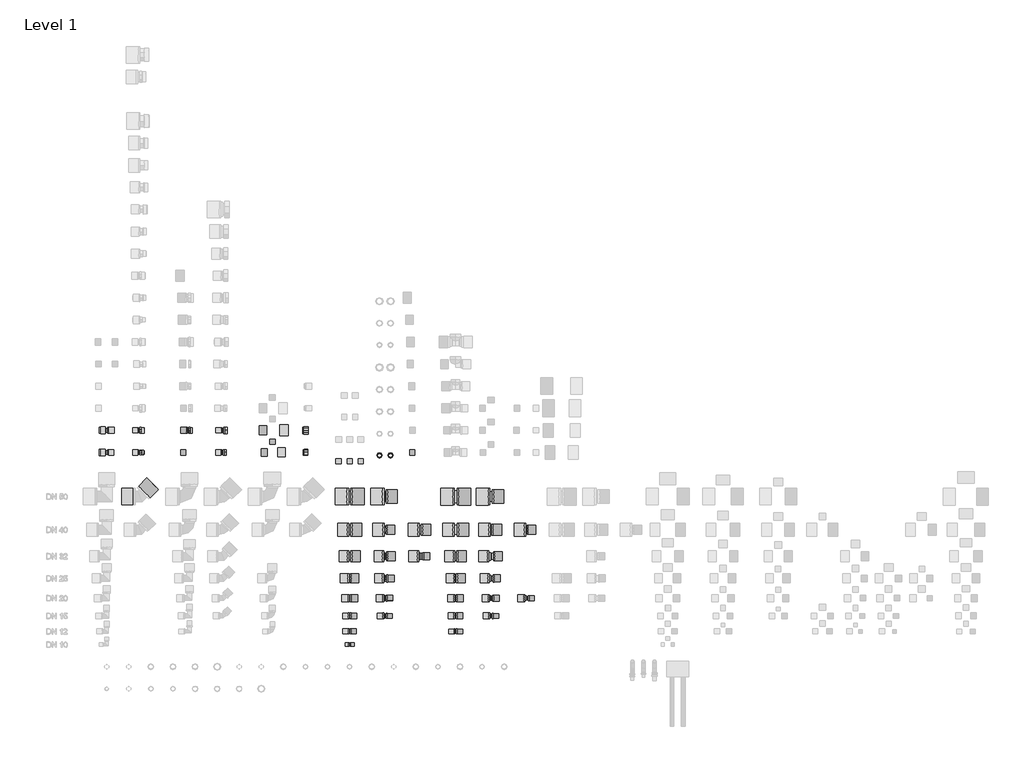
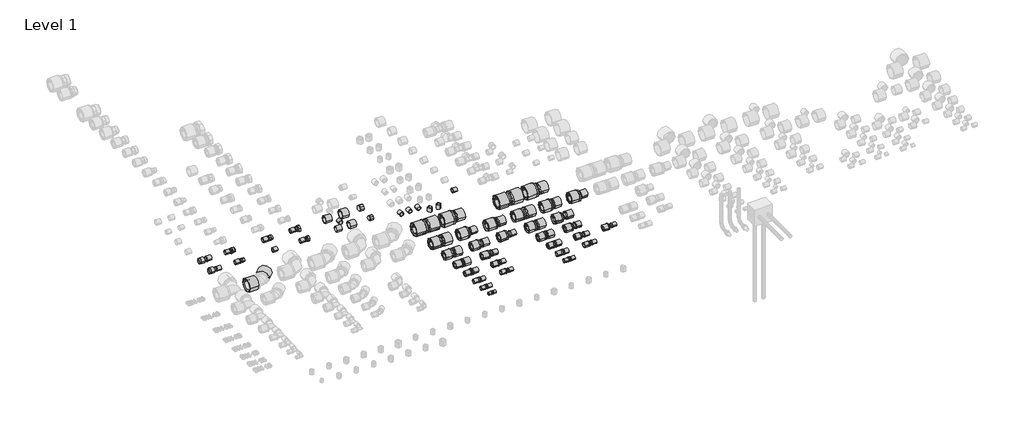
# One storey, part 2 of 6: 123 pipe fittings.
"""IFC4 building model written with IfcOpenShell, lengths in millimetres."""

from ifc_helpers import new_model, si_unit, origin, place, context, project, spatial, transform, mapped, element, save
from components import pipe_fitting_4fda1461, pipe_fitting_37bbe906, pipe_fitting_1c4b8443, pipe_fitting_efe7aa76, pipe_fitting_afe3fb24, pipe_fitting_709f2c42, pipe_fitting_0746f0ab, pipe_fitting_6fe5a3bb, pipe_fitting_5c01712a, pipe_fitting_b25a488c, pipe_fitting_b87c9c57, pipe_fitting_1c786bbc, pipe_fitting_a2244846, pipe_fitting_48054694, pipe_fitting_37e15ff8, pipe_fitting_1876d1a3, pipe_fitting_88740129, pipe_fitting_396ce9a4, pipe_fitting_2d968c61, pipe_fitting_3e5a956d, pipe_fitting_59d7ee80, pipe_fitting_b69b1b09, pipe_fitting_6357771a, pipe_fitting_d834bf19, pipe_fitting_4a6725c8, pipe_fitting_a8e717c4, pipe_fitting_1b92578f, pipe_fitting_dde2d515, pipe_fitting_5ba26716, pipe_fitting_1e73dd1d, pipe_fitting_0a6e0220, pipe_fitting_c8656788, pipe_fitting_377b98a1, pipe_fitting_32b6f711, pipe_fitting_9065546d, pipe_fitting_d806b147, pipe_fitting_b47dd0d5, pipe_fitting_080a5288, pipe_fitting_ffb84d2a, pipe_fitting_c9c9eba3, pipe_fitting_749d9a03, pipe_fitting_037c3912, pipe_fitting_a8fbe6ac, pipe_fitting_d8f8e9d9, pipe_fitting_02b715f6, pipe_fitting_7a5bf8d1, pipe_fitting_13d5c0a8, pipe_fitting_6872f2bf, pipe_fitting_39c83d2c, pipe_fitting_c5a5d3f0, pipe_fitting_217c7af4, pipe_fitting_49fee2ea, pipe_fitting_8af3721d, pipe_fitting_785edea0, pipe_fitting_6b43a2d7, pipe_fitting_e8103e93, pipe_fitting_925a95b2, pipe_fitting_cf229f42, pipe_fitting_0b8f8fc7, pipe_fitting_2f2cc1b0

model = new_model("IFC4")

# Units and contexts
model_context = context("Model", 3, world=origin())
ifc_project = project(units=[si_unit("LENGTHUNIT", "METRE", prefix="MILLI")], contexts=[model_context])

# Site, building, storey
site = spatial("IfcSite", under=ifc_project)
building = spatial("IfcBuilding", under=site)
storey = spatial("IfcBuildingStorey", under=building, Name="Level 1", Elevation=0.0)

# Pipe fittings
placement = place(None, origin())
pipe_fitting_shape = pipe_fitting_4fda1461(model_context)
element("IfcPipeFitting", 1, ObjectType="RAUTITAN_Union_PX : RTI PX U DE", at=placement, inside=storey, context=model_context, shape_type="MappedRepresentation", body=[
    mapped(pipe_fitting_shape, transform((1580.0, 60.0, 0.0), x_axis=(1.0, 0.0, 0.0), y_axis=(0.0, 1.0, 0.0), z_axis=(0.0, 0.0, 1.0))),
])
pipe_fitting_2_shape = pipe_fitting_37bbe906(model_context)
element("IfcPipeFitting", 2, ObjectType="RAUTITAN_Transition_PX : RTI PX Tr DE", at=placement, inside=storey, context=model_context, shape_type="MappedRepresentation", body=[
    mapped(pipe_fitting_2_shape, transform((1740.0, 400.0, 0.0), x_axis=(1.0, 0.0, 0.0), y_axis=(0.0, 1.0, 0.0), z_axis=(0.0, 0.0, 1.0))),
])
pipe_fitting_3_shape = pipe_fitting_1c4b8443(model_context)
element("IfcPipeFitting", 3, ObjectType="RAUTITAN_Transition_RX+ stabil : RTI RX+ stabil Tr DE", at=placement, inside=storey, context=model_context, shape_type="MappedRepresentation", body=[
    mapped(pipe_fitting_3_shape, transform((1740.0, 670.0, 0.0), x_axis=(1.0, 0.0, 0.0), y_axis=(0.0, 1.0, 0.0), z_axis=(0.0, 0.0, 1.0))),
])
pipe_fitting_4_shape = pipe_fitting_efe7aa76(model_context)
element("IfcPipeFitting", 4, ObjectType="RAUTITAN_Transition_LX : RTI LX Tr DE", at=placement, inside=storey, context=model_context, shape_type="MappedRepresentation", body=[
    mapped(pipe_fitting_4_shape, transform((1260.0, 400.0, 0.0), x_axis=(1.0, 0.0, 0.0), y_axis=(0.0, 1.0, 0.0), z_axis=(0.0, 0.0, 1.0))),
])
pipe_fitting_5_shape = pipe_fitting_afe3fb24(model_context)
element("IfcPipeFitting", 5, ObjectType="RAUTITAN_Union_LX : RTI LX U DE", at=placement, inside=storey, context=model_context, shape_type="MappedRepresentation", body=[
    mapped(pipe_fitting_5_shape, transform((1100.0, 300.0, 0.0), x_axis=(1.0, 0.0, 0.0), y_axis=(0.0, 1.0, 0.0), z_axis=(0.0, 0.0, 1.0))),
])
pipe_fitting_6_shape = pipe_fitting_709f2c42(model_context)
element("IfcPipeFitting", 6, ObjectType="RAUTITAN_Sleeve SDR 7,4 : RTI S SDR 7,4", at=placement, inside=storey, context=model_context, shape_type="MappedRepresentation", body=[
    mapped(pipe_fitting_6_shape, transform((1094.5, 0.0, 0.0), x_axis=(-1.0, 0.0, 0.0), y_axis=(0.0, -1.0, 0.0), z_axis=(0.0, 0.0, 1.0))),
])
element("IfcPipeFitting", 7, ObjectType="RAUTITAN_Sleeve SDR 7,4 : RTI S SDR 7,4", at=placement, inside=storey, context=model_context, shape_type="MappedRepresentation", body=[
    mapped(pipe_fitting_6_shape, transform((1105.5, 0.0, 0.0), x_axis=(1.0, 0.0, 0.0), y_axis=(0.0, 1.0, 0.0), z_axis=(0.0, 0.0, 1.0))),
])
pipe_fitting_7_shape = pipe_fitting_0746f0ab(model_context)
element("IfcPipeFitting", 8, ObjectType="RAUTITAN_Sleeve SDR 7,4 : RTI S SDR 7,4", at=placement, inside=storey, context=model_context, shape_type="MappedRepresentation", body=[
    mapped(pipe_fitting_7_shape, transform((1093.7, 60.0, 0.0), x_axis=(-1.0, 0.0, 0.0), y_axis=(0.0, -1.0, 0.0), z_axis=(0.0, 0.0, 1.0))),
])
element("IfcPipeFitting", 9, ObjectType="RAUTITAN_Sleeve SDR 7,4 : RTI S SDR 7,4", at=placement, inside=storey, context=model_context, shape_type="MappedRepresentation", body=[
    mapped(pipe_fitting_7_shape, transform((1106.3, 60.0, 0.0), x_axis=(1.0, 0.0, 0.0), y_axis=(0.0, 1.0, 0.0), z_axis=(0.0, 0.0, 1.0))),
])
element("IfcPipeFitting", 10, ObjectType="RAUTITAN_Sleeve SDR 7,4 : RTI S SDR 7,4", at=placement, inside=storey, context=model_context, shape_type="MappedRepresentation", body=[
    mapped(pipe_fitting_7_shape, transform((1269.55, 130.0, 0.0), x_axis=(1.0, 0.0, 0.0), y_axis=(0.0, 1.0, 0.0), z_axis=(0.0, 0.0, 1.0))),
])
pipe_fitting_8_shape = pipe_fitting_6fe5a3bb(model_context)
element("IfcPipeFitting", 11, ObjectType="RAUTITAN_Sleeve SDR 7,4 : RTI S SDR 7,4", at=placement, inside=storey, context=model_context, shape_type="MappedRepresentation", body=[
    mapped(pipe_fitting_8_shape, transform((1250.45, 130.0, 0.0), x_axis=(-1.0, 0.0, 0.0), y_axis=(0.0, -1.0, 0.0), z_axis=(0.0, 0.0, 1.0))),
])
pipe_fitting_9_shape = pipe_fitting_5c01712a(model_context)
element("IfcPipeFitting", 12, ObjectType="RAUTITAN_Sleeve SDR 7,4 : RTI S SDR 7,4", at=placement, inside=storey, context=model_context, shape_type="MappedRepresentation", body=[
    mapped(pipe_fitting_9_shape, transform((1089.0, 520.0, 0.0), x_axis=(-1.0, 0.0, 0.0), y_axis=(0.0, -1.0, 0.0), z_axis=(0.0, 0.0, 1.0))),
])
element("IfcPipeFitting", 13, ObjectType="RAUTITAN_Sleeve SDR 7,4 : RTI S SDR 7,4", at=placement, inside=storey, context=model_context, shape_type="MappedRepresentation", body=[
    mapped(pipe_fitting_9_shape, transform((1111.0, 520.0, 0.0), x_axis=(1.0, 0.0, 0.0), y_axis=(0.0, 1.0, 0.0), z_axis=(0.0, 0.0, 1.0))),
])
element("IfcPipeFitting", 14, ObjectType="RAUTITAN_Sleeve SDR 7,4 : RTI S SDR 7,4", at=placement, inside=storey, context=model_context, shape_type="MappedRepresentation", body=[
    mapped(pipe_fitting_9_shape, transform((1249.25, 520.0, 0.0), x_axis=(-1.0, 0.0, 0.0), y_axis=(0.0, -1.0, 0.0), z_axis=(0.0, 0.0, 1.0))),
])
element("IfcPipeFitting", 15, ObjectType="RAUTITAN_Sleeve SDR 7,4 : RTI S SDR 7,4", at=placement, inside=storey, context=model_context, shape_type="MappedRepresentation", body=[
    mapped(pipe_fitting_9_shape, transform((1409.0, 520.0, 0.0), x_axis=(-1.0, 0.0, 0.0), y_axis=(0.0, -1.0, 0.0), z_axis=(0.0, 0.0, 1.0))),
])
element("IfcPipeFitting", 16, ObjectType="RAUTITAN_Sleeve SDR 7,4 : RTI S SDR 7,4", at=placement, inside=storey, context=model_context, shape_type="MappedRepresentation", body=[
    mapped(pipe_fitting_9_shape, transform((1271.75, 670.0, 0.0), x_axis=(1.0, 0.0, 0.0), y_axis=(0.0, 1.0, 0.0), z_axis=(0.0, 0.0, 1.0))),
])
pipe_fitting_10_shape = pipe_fitting_b25a488c(model_context)
element("IfcPipeFitting", 17, ObjectType="RAUTITAN_Sleeve SDR 7,4 : RTI S SDR 7,4", at=placement, inside=storey, context=model_context, shape_type="MappedRepresentation", body=[
    mapped(pipe_fitting_10_shape, transform((120.7, 670.0, 0.0), x_axis=(-1.0, 0.0, 0.0), y_axis=(0.0, -1.0, 0.0), z_axis=(0.0, 0.0, 1.0))),
])
element("IfcPipeFitting", 18, ObjectType="RAUTITAN_Sleeve SDR 7,4 : RTI S SDR 7,4", at=placement, inside=storey, context=model_context, shape_type="MappedRepresentation", body=[
    mapped(pipe_fitting_10_shape, transform((170.7182287, 690.7182287, 0.0), x_axis=(0.7071067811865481, 0.707106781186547, 0.0), y_axis=(-0.707106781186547, 0.7071067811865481, 0.0), z_axis=(0.0, 0.0, 1.0))),
])
element("IfcPipeFitting", 19, ObjectType="RAUTITAN_Sleeve SDR 7,4 : RTI S SDR 7,4", at=placement, inside=storey, context=model_context, shape_type="MappedRepresentation", body=[
    mapped(pipe_fitting_10_shape, transform((1087.5, 670.0, 0.0), x_axis=(-1.0, 0.0, 0.0), y_axis=(0.0, -1.0, 0.0), z_axis=(0.0, 0.0, 1.0))),
])
element("IfcPipeFitting", 20, ObjectType="RAUTITAN_Sleeve SDR 7,4 : RTI S SDR 7,4", at=placement, inside=storey, context=model_context, shape_type="MappedRepresentation", body=[
    mapped(pipe_fitting_10_shape, transform((1112.5, 670.0, 0.0), x_axis=(1.0, 0.0, 0.0), y_axis=(0.0, 1.0, 0.0), z_axis=(0.0, 0.0, 1.0))),
])
element("IfcPipeFitting", 21, ObjectType="RAUTITAN_Sleeve SDR 7,4 : RTI S SDR 7,4", at=placement, inside=storey, context=model_context, shape_type="MappedRepresentation", body=[
    mapped(pipe_fitting_10_shape, transform((1248.25, 670.0, 0.0), x_axis=(-1.0, 0.0, 0.0), y_axis=(0.0, -1.0, 0.0), z_axis=(0.0, 0.0, 1.0))),
])
pipe_fitting_11_shape = pipe_fitting_b87c9c57(model_context)
element("IfcPipeFitting", 22, ObjectType="RAUTITAN_Union_LX : RTI LX U NL", at=placement, inside=storey, context=model_context, shape_type="MappedRepresentation", body=[
    mapped(pipe_fitting_11_shape, transform((1100.0, 0.0, 0.0), x_axis=(1.0, 0.0, 0.0), y_axis=(0.0, 1.0, 0.0), z_axis=(0.0, 0.0, 1.0))),
])
pipe_fitting_12_shape = pipe_fitting_1c786bbc(model_context)
element("IfcPipeFitting", 23, ObjectType="RAUTITAN_Union_LX : RTI LX U DE", at=placement, inside=storey, context=model_context, shape_type="MappedRepresentation", body=[
    mapped(pipe_fitting_12_shape, transform((1100.0, 670.0, 0.0), x_axis=(1.0, 0.0, 0.0), y_axis=(0.0, 1.0, 0.0), z_axis=(0.0, 0.0, 1.0))),
])
pipe_fitting_13_shape = pipe_fitting_a2244846(model_context)
element("IfcPipeFitting", 24, ObjectType="RAUTITAN_Union_LX : RTI LX U DE", at=placement, inside=storey, context=model_context, shape_type="MappedRepresentation", body=[
    mapped(pipe_fitting_13_shape, transform((1100.0, 520.0, 0.0), x_axis=(1.0, 0.0, 0.0), y_axis=(0.0, 1.0, 0.0), z_axis=(0.0, 0.0, 1.0))),
])
pipe_fitting_14_shape = pipe_fitting_48054694(model_context)
element("IfcPipeFitting", 25, ObjectType="RAUTITAN_Union_LX : RTI LX U DE", at=placement, inside=storey, context=model_context, shape_type="MappedRepresentation", body=[
    mapped(pipe_fitting_14_shape, transform((1100.0, 400.0, 0.0), x_axis=(1.0, 0.0, 0.0), y_axis=(0.0, 1.0, 0.0), z_axis=(0.0, 0.0, 1.0))),
])
pipe_fitting_15_shape = pipe_fitting_37e15ff8(model_context)
element("IfcPipeFitting", 26, ObjectType="RAUTITAN_Sleeve SDR 7,4 : RTI S SDR 7,4", at=placement, inside=storey, context=model_context, shape_type="MappedRepresentation", body=[
    mapped(pipe_fitting_15_shape, transform((1089.0, 400.0, 0.0), x_axis=(-1.0, 0.0, 0.0), y_axis=(0.0, -1.0, 0.0), z_axis=(0.0, 0.0, 1.0))),
])
element("IfcPipeFitting", 27, ObjectType="RAUTITAN_Sleeve SDR 7,4 : RTI S SDR 7,4", at=placement, inside=storey, context=model_context, shape_type="MappedRepresentation", body=[
    mapped(pipe_fitting_15_shape, transform((1111.0, 400.0, 0.0), x_axis=(1.0, 0.0, 0.0), y_axis=(0.0, 1.0, 0.0), z_axis=(0.0, 0.0, 1.0))),
])
element("IfcPipeFitting", 28, ObjectType="RAUTITAN_Sleeve SDR 7,4 : RTI S SDR 7,4", at=placement, inside=storey, context=model_context, shape_type="MappedRepresentation", body=[
    mapped(pipe_fitting_15_shape, transform((1247.35, 400.0, 0.0), x_axis=(-1.0, 0.0, 0.0), y_axis=(0.0, -1.0, 0.0), z_axis=(0.0, 0.0, 1.0))),
])
element("IfcPipeFitting", 29, ObjectType="RAUTITAN_Sleeve SDR 7,4 : RTI S SDR 7,4", at=placement, inside=storey, context=model_context, shape_type="MappedRepresentation", body=[
    mapped(pipe_fitting_15_shape, transform((1405.5, 400.0, 0.0), x_axis=(-1.0, 0.0, 0.0), y_axis=(0.0, -1.0, 0.0), z_axis=(0.0, 0.0, 1.0))),
])
element("IfcPipeFitting", 30, ObjectType="RAUTITAN_Sleeve SDR 7,4 : RTI S SDR 7,4", at=placement, inside=storey, context=model_context, shape_type="MappedRepresentation", body=[
    mapped(pipe_fitting_15_shape, transform((1431.0, 520.0, 0.0), x_axis=(1.0, 0.0, 0.0), y_axis=(0.0, 1.0, 0.0), z_axis=(0.0, 0.0, 1.0))),
])
pipe_fitting_16_shape = pipe_fitting_1876d1a3(model_context)
element("IfcPipeFitting", 31, ObjectType="RAUTITAN_Sleeve SDR 7,4 : RTI S SDR 7,4", at=placement, inside=storey, context=model_context, shape_type="MappedRepresentation", body=[
    mapped(pipe_fitting_16_shape, transform((1092.0, 300.0, 0.0), x_axis=(-1.0, 0.0, 0.0), y_axis=(0.0, -1.0, 0.0), z_axis=(0.0, 0.0, 1.0))),
])
element("IfcPipeFitting", 32, ObjectType="RAUTITAN_Sleeve SDR 7,4 : RTI S SDR 7,4", at=placement, inside=storey, context=model_context, shape_type="MappedRepresentation", body=[
    mapped(pipe_fitting_16_shape, transform((1108.0, 300.0, 0.0), x_axis=(1.0, 0.0, 0.0), y_axis=(0.0, 1.0, 0.0), z_axis=(0.0, 0.0, 1.0))),
])
element("IfcPipeFitting", 33, ObjectType="RAUTITAN_Sleeve SDR 7,4 : RTI S SDR 7,4", at=placement, inside=storey, context=model_context, shape_type="MappedRepresentation", body=[
    mapped(pipe_fitting_16_shape, transform((1272.65, 400.0, 0.0), x_axis=(1.0, 0.0, 0.0), y_axis=(0.0, 1.0, 0.0), z_axis=(0.0, 0.0, 1.0))),
])
element("IfcPipeFitting", 34, ObjectType="RAUTITAN_Sleeve SDR 7,4 : RTI S SDR 7,4", at=placement, inside=storey, context=model_context, shape_type="MappedRepresentation", body=[
    mapped(pipe_fitting_16_shape, transform((1270.75, 520.0, 0.0), x_axis=(1.0, 0.0, 0.0), y_axis=(0.0, 1.0, 0.0), z_axis=(0.0, 0.0, 1.0))),
])
element("IfcPipeFitting", 35, ObjectType="RAUTITAN_Sleeve SDR 7,4 : RTI S SDR 7,4", at=placement, inside=storey, context=model_context, shape_type="MappedRepresentation", body=[
    mapped(pipe_fitting_16_shape, transform((1248.15, 300.0, 0.0), x_axis=(-1.0, 0.0, 0.0), y_axis=(0.0, -1.0, 0.0), z_axis=(0.0, 0.0, 1.0))),
])
pipe_fitting_17_shape = pipe_fitting_88740129(model_context)
element("IfcPipeFitting", 36, ObjectType="RAUTITAN_Union_LX : RTI LX U DE", at=placement, inside=storey, context=model_context, shape_type="MappedRepresentation", body=[
    mapped(pipe_fitting_17_shape, transform((1100.0, 210.0, 0.0), x_axis=(1.0, 0.0, 0.0), y_axis=(0.0, 1.0, 0.0), z_axis=(0.0, 0.0, 1.0))),
])
pipe_fitting_18_shape = pipe_fitting_396ce9a4(model_context)
element("IfcPipeFitting", 37, ObjectType="RAUTITAN_Sleeve SDR 7,4 : RTI S SDR 7,4", at=placement, inside=storey, context=model_context, shape_type="MappedRepresentation", body=[
    mapped(pipe_fitting_18_shape, transform((1092.8, 210.0, 0.0), x_axis=(-1.0, 0.0, 0.0), y_axis=(0.0, -1.0, 0.0), z_axis=(0.0, 0.0, 1.0))),
])
element("IfcPipeFitting", 38, ObjectType="RAUTITAN_Sleeve SDR 7,4 : RTI S SDR 7,4", at=placement, inside=storey, context=model_context, shape_type="MappedRepresentation", body=[
    mapped(pipe_fitting_18_shape, transform((1107.2, 210.0, 0.0), x_axis=(1.0, 0.0, 0.0), y_axis=(0.0, 1.0, 0.0), z_axis=(0.0, 0.0, 1.0))),
])
element("IfcPipeFitting", 39, ObjectType="RAUTITAN_Sleeve SDR 7,4 : RTI S SDR 7,4", at=placement, inside=storey, context=model_context, shape_type="MappedRepresentation", body=[
    mapped(pipe_fitting_18_shape, transform((1434.5, 400.0, 0.0), x_axis=(1.0, 0.0, 0.0), y_axis=(0.0, 1.0, 0.0), z_axis=(0.0, 0.0, 1.0))),
])
element("IfcPipeFitting", 40, ObjectType="RAUTITAN_Sleeve SDR 7,4 : RTI S SDR 7,4", at=placement, inside=storey, context=model_context, shape_type="MappedRepresentation", body=[
    mapped(pipe_fitting_18_shape, transform((1271.85, 300.0, 0.0), x_axis=(1.0, 0.0, 0.0), y_axis=(0.0, 1.0, 0.0), z_axis=(0.0, 0.0, 1.0))),
])
element("IfcPipeFitting", 41, ObjectType="RAUTITAN_Sleeve SDR 7,4 : RTI S SDR 7,4", at=placement, inside=storey, context=model_context, shape_type="MappedRepresentation", body=[
    mapped(pipe_fitting_18_shape, transform((1250.0, 210.0, 0.0), x_axis=(-1.0, 0.0, 0.0), y_axis=(0.0, -1.0, 0.0), z_axis=(0.0, 0.0, 1.0))),
])
pipe_fitting_19_shape = pipe_fitting_2d968c61(model_context)
element("IfcPipeFitting", 42, ObjectType="RAUTITAN_Union_LX : RTI LX U DE", at=placement, inside=storey, context=model_context, shape_type="MappedRepresentation", body=[
    mapped(pipe_fitting_19_shape, transform((1100.0, 130.0, 0.0), x_axis=(1.0, 0.0, 0.0), y_axis=(0.0, 1.0, 0.0), z_axis=(0.0, 0.0, 1.0))),
])
element("IfcPipeFitting", 43, ObjectType="RAUTITAN_Sleeve SDR 7,4 : RTI S SDR 7,4", at=placement, inside=storey, context=model_context, shape_type="MappedRepresentation", body=[
    mapped(pipe_fitting_8_shape, transform((1093.2, 130.0, 0.0), x_axis=(-1.0, 0.0, 0.0), y_axis=(0.0, -1.0, 0.0), z_axis=(0.0, 0.0, 1.0))),
])
element("IfcPipeFitting", 44, ObjectType="RAUTITAN_Sleeve SDR 7,4 : RTI S SDR 7,4", at=placement, inside=storey, context=model_context, shape_type="MappedRepresentation", body=[
    mapped(pipe_fitting_8_shape, transform((1106.8, 130.0, 0.0), x_axis=(1.0, 0.0, 0.0), y_axis=(0.0, 1.0, 0.0), z_axis=(0.0, 0.0, 1.0))),
])
element("IfcPipeFitting", 45, ObjectType="RAUTITAN_Sleeve SDR 7,4 : RTI S SDR 7,4", at=placement, inside=storey, context=model_context, shape_type="MappedRepresentation", body=[
    mapped(pipe_fitting_8_shape, transform((1270.0, 210.0, 0.0), x_axis=(1.0, 0.0, 0.0), y_axis=(0.0, 1.0, 0.0), z_axis=(0.0, 0.0, 1.0))),
])
pipe_fitting_20_shape = pipe_fitting_3e5a956d(model_context)
element("IfcPipeFitting", 46, ObjectType="RAUTITAN_Union_LX : RTI LX U NL", at=placement, inside=storey, context=model_context, shape_type="MappedRepresentation", body=[
    mapped(pipe_fitting_20_shape, transform((1100.0, 60.0, 0.0), x_axis=(1.0, 0.0, 0.0), y_axis=(0.0, 1.0, 0.0), z_axis=(0.0, 0.0, 1.0))),
])
pipe_fitting_21_shape = pipe_fitting_59d7ee80(model_context)
element("IfcPipeFitting", 47, ObjectType="RAUTITAN_Transition_LX : RTI LX Tr DE", at=placement, inside=storey, context=model_context, shape_type="MappedRepresentation", body=[
    mapped(pipe_fitting_21_shape, transform((1420.0, 400.0, 0.0), x_axis=(1.0, 0.0, 0.0), y_axis=(0.0, 1.0, 0.0), z_axis=(0.0, 0.0, 1.0))),
])
pipe_fitting_22_shape = pipe_fitting_b69b1b09(model_context)
element("IfcPipeFitting", 48, ObjectType="RAUTITAN_Transition_LX : RTI LX Tr DE", at=placement, inside=storey, context=model_context, shape_type="MappedRepresentation", body=[
    mapped(pipe_fitting_22_shape, transform((1260.0, 520.0, 0.0), x_axis=(1.0, 0.0, 0.0), y_axis=(0.0, 1.0, 0.0), z_axis=(0.0, 0.0, 1.0))),
])
pipe_fitting_23_shape = pipe_fitting_6357771a(model_context)
element("IfcPipeFitting", 49, ObjectType="RAUTITAN_Transition_LX : RTI LX Tr DE", at=placement, inside=storey, context=model_context, shape_type="MappedRepresentation", body=[
    mapped(pipe_fitting_23_shape, transform((1420.0, 520.0, 0.0), x_axis=(1.0, 0.0, 0.0), y_axis=(0.0, 1.0, 0.0), z_axis=(0.0, 0.0, 1.0))),
])
pipe_fitting_24_shape = pipe_fitting_d834bf19(model_context)
element("IfcPipeFitting", 50, ObjectType="RAUTITAN_Transition_LX : RTI LX Tr DE", at=placement, inside=storey, context=model_context, shape_type="MappedRepresentation", body=[
    mapped(pipe_fitting_24_shape, transform((1260.0, 300.0, 0.0), x_axis=(1.0, 0.0, 0.0), y_axis=(0.0, 1.0, 0.0), z_axis=(0.0, 0.0, 1.0))),
])
pipe_fitting_25_shape = pipe_fitting_4a6725c8(model_context)
element("IfcPipeFitting", 51, ObjectType="RAUTITAN_Transition_LX : RTI LX Tr DE", at=placement, inside=storey, context=model_context, shape_type="MappedRepresentation", body=[
    mapped(pipe_fitting_25_shape, transform((1260.0, 210.0, 0.0), x_axis=(1.0, 0.0, 0.0), y_axis=(0.0, 1.0, 0.0), z_axis=(0.0, 0.0, 1.0))),
])
pipe_fitting_26_shape = pipe_fitting_a8e717c4(model_context)
element("IfcPipeFitting", 52, ObjectType="RAUTITAN_Transition_LX : RTI LX Tr NL", at=placement, inside=storey, context=model_context, shape_type="MappedRepresentation", body=[
    mapped(pipe_fitting_26_shape, transform((1260.0, 130.0, 0.0), x_axis=(1.0, 0.0, 0.0), y_axis=(0.0, 1.0, 0.0), z_axis=(0.0, 0.0, 1.0))),
])
pipe_fitting_27_shape = pipe_fitting_1b92578f(model_context)
element("IfcPipeFitting", 53, ObjectType="RAUTITAN_Transition_LX : RTI LX Tr DE", at=placement, inside=storey, context=model_context, shape_type="MappedRepresentation", body=[
    mapped(pipe_fitting_27_shape, transform((1260.0, 670.0, 0.0), x_axis=(1.0, 0.0, 0.0), y_axis=(0.0, 1.0, 0.0), z_axis=(0.0, 0.0, 1.0))),
])
pipe_fitting_28_shape = pipe_fitting_dde2d515(model_context)
element("IfcPipeFitting", 54, ObjectType="RAUTITAN_Union_PX : RTI PX U DE", at=placement, inside=storey, context=model_context, shape_type="MappedRepresentation", body=[
    mapped(pipe_fitting_28_shape, transform((1580.0, 130.0, 0.0), x_axis=(1.0, 0.0, 0.0), y_axis=(0.0, 1.0, 0.0), z_axis=(0.0, 0.0, 1.0))),
])
pipe_fitting_29_shape = pipe_fitting_5ba26716(model_context)
element("IfcPipeFitting", 55, ObjectType="RAUTITAN_Union_PX : RTI PX U DE", at=placement, inside=storey, context=model_context, shape_type="MappedRepresentation", body=[
    mapped(pipe_fitting_29_shape, transform((1580.0, 210.0, 0.0), x_axis=(1.0, 0.0, 0.0), y_axis=(0.0, 1.0, 0.0), z_axis=(0.0, 0.0, 1.0))),
])
pipe_fitting_30_shape = pipe_fitting_1e73dd1d(model_context)
element("IfcPipeFitting", 56, ObjectType="RAUTITAN_Union_PX : RTI PX U DE", at=placement, inside=storey, context=model_context, shape_type="MappedRepresentation", body=[
    mapped(pipe_fitting_30_shape, transform((1580.0, 300.0, 0.0), x_axis=(1.0, 0.0, 0.0), y_axis=(0.0, 1.0, 0.0), z_axis=(0.0, 0.0, 1.0))),
])
pipe_fitting_31_shape = pipe_fitting_0a6e0220(model_context)
element("IfcPipeFitting", 57, ObjectType="RAUTITAN_Union_PX : RTI PX U DE", at=placement, inside=storey, context=model_context, shape_type="MappedRepresentation", body=[
    mapped(pipe_fitting_31_shape, transform((1580.0, 400.0, 0.0), x_axis=(1.0, 0.0, 0.0), y_axis=(0.0, 1.0, 0.0), z_axis=(0.0, 0.0, 1.0))),
])
pipe_fitting_32_shape = pipe_fitting_c8656788(model_context)
element("IfcPipeFitting", 58, ObjectType="RAUTITAN_Transition_PX : RTI PX Tr DE", at=placement, inside=storey, context=model_context, shape_type="MappedRepresentation", body=[
    mapped(pipe_fitting_32_shape, transform((1740.0, 300.0, 0.0), x_axis=(1.0, 0.0, 0.0), y_axis=(0.0, 1.0, 0.0), z_axis=(0.0, 0.0, 1.0))),
])
pipe_fitting_33_shape = pipe_fitting_377b98a1(model_context)
element("IfcPipeFitting", 59, ObjectType="RAUTITAN_Transition_PX : RTI PX Tr DE", at=placement, inside=storey, context=model_context, shape_type="MappedRepresentation", body=[
    mapped(pipe_fitting_33_shape, transform((1740.0, 210.0, 0.0), x_axis=(1.0, 0.0, 0.0), y_axis=(0.0, 1.0, 0.0), z_axis=(0.0, 0.0, 1.0))),
])
pipe_fitting_34_shape = pipe_fitting_32b6f711(model_context)
element("IfcPipeFitting", 60, ObjectType="RAUTITAN_Transition_PX : RTI PX Tr DE", at=placement, inside=storey, context=model_context, shape_type="MappedRepresentation", body=[
    mapped(pipe_fitting_34_shape, transform((1900.0, 210.0, 0.0), x_axis=(1.0, 0.0, 0.0), y_axis=(0.0, 1.0, 0.0), z_axis=(0.0, 0.0, 1.0))),
])
pipe_fitting_35_shape = pipe_fitting_9065546d(model_context)
element("IfcPipeFitting", 61, ObjectType="RAUTITAN_Transition_PX : RTI PX Tr DE", at=placement, inside=storey, context=model_context, shape_type="MappedRepresentation", body=[
    mapped(pipe_fitting_35_shape, transform((1740.0, 130.0, 0.0), x_axis=(1.0, 0.0, 0.0), y_axis=(0.0, 1.0, 0.0), z_axis=(0.0, 0.0, 1.0))),
])
pipe_fitting_36_shape = pipe_fitting_d806b147(model_context)
element("IfcPipeFitting", 62, ObjectType="RAUTITAN_Transition_RX+ stabil : RTI RX+ stabil Tr DE", at=placement, inside=storey, context=model_context, shape_type="MappedRepresentation", body=[
    mapped(pipe_fitting_36_shape, transform((1740.0, 520.0, 0.0), x_axis=(1.0, 0.0, 0.0), y_axis=(0.0, 1.0, 0.0), z_axis=(0.0, 0.0, 1.0))),
])
pipe_fitting_37_shape = pipe_fitting_b47dd0d5(model_context)
element("IfcPipeFitting", 63, ObjectType="RAUTITAN_Transition_RX+ stabil : RTI RX+ stabil Tr DE", at=placement, inside=storey, context=model_context, shape_type="MappedRepresentation", body=[
    mapped(pipe_fitting_37_shape, transform((1900.0, 520.0, 0.0), x_axis=(1.0, 0.0, 0.0), y_axis=(0.0, 1.0, 0.0), z_axis=(0.0, 0.0, 1.0))),
])
pipe_fitting_38_shape = pipe_fitting_080a5288(model_context)
element("IfcPipeFitting", 64, ObjectType="RAUTITAN_Union_RX+ stabil : RTI RX+ stabil U DE", at=placement, inside=storey, context=model_context, shape_type="MappedRepresentation", body=[
    mapped(pipe_fitting_38_shape, transform((1580.0, 670.0, 0.0), x_axis=(1.0, 0.0, 0.0), y_axis=(0.0, 1.0, 0.0), z_axis=(0.0, 0.0, 1.0))),
])
pipe_fitting_39_shape = pipe_fitting_ffb84d2a(model_context)
element("IfcPipeFitting", 65, ObjectType="RAUTITAN_Union_RX+ stabil : RTI RX+ stabil U DE", at=placement, inside=storey, context=model_context, shape_type="MappedRepresentation", body=[
    mapped(pipe_fitting_39_shape, transform((1580.0, 520.0, 0.0), x_axis=(1.0, 0.0, 0.0), y_axis=(0.0, 1.0, 0.0), z_axis=(0.0, 0.0, 1.0))),
])
pipe_fitting_40_shape = pipe_fitting_c9c9eba3(model_context)
element("IfcPipeFitting", 66, ObjectType="RAUTITAN_Sleeve PX : RTI S PX", at=placement, inside=storey, context=model_context, shape_type="MappedRepresentation", body=[
    mapped(pipe_fitting_40_shape, transform((1572.75, 60.0, 0.0), x_axis=(-1.0, 0.0, 0.0), y_axis=(0.0, -1.0, 0.0), z_axis=(0.0, 0.0, 1.0))),
])
element("IfcPipeFitting", 67, ObjectType="RAUTITAN_Sleeve PX : RTI S PX", at=placement, inside=storey, context=model_context, shape_type="MappedRepresentation", body=[
    mapped(pipe_fitting_40_shape, transform((1587.25, 60.0, 0.0), x_axis=(1.0, 0.0, 0.0), y_axis=(0.0, 1.0, 0.0), z_axis=(0.0, 0.0, 1.0))),
])
element("IfcPipeFitting", 68, ObjectType="RAUTITAN_Sleeve PX : RTI S PX", at=placement, inside=storey, context=model_context, shape_type="MappedRepresentation", body=[
    mapped(pipe_fitting_40_shape, transform((1912.15, 210.0, 0.0), x_axis=(1.0, 0.0, 0.0), y_axis=(0.0, 1.0, 0.0), z_axis=(0.0, 0.0, 1.0))),
])
element("IfcPipeFitting", 69, ObjectType="RAUTITAN_Sleeve PX : RTI S PX", at=placement, inside=storey, context=model_context, shape_type="MappedRepresentation", body=[
    mapped(pipe_fitting_40_shape, transform((1750.3, 130.0, 0.0), x_axis=(1.0, 0.0, 0.0), y_axis=(0.0, 1.0, 0.0), z_axis=(0.0, 0.0, 1.0))),
])
pipe_fitting_41_shape = pipe_fitting_749d9a03(model_context)
element("IfcPipeFitting", 70, ObjectType="RAUTITAN_Sleeve PX : RTI S PX", at=placement, inside=storey, context=model_context, shape_type="MappedRepresentation", body=[
    mapped(pipe_fitting_41_shape, transform((1572.15, 130.0, 0.0), x_axis=(-1.0, 0.0, 0.0), y_axis=(0.0, -1.0, 0.0), z_axis=(0.0, 0.0, 1.0))),
])
element("IfcPipeFitting", 71, ObjectType="RAUTITAN_Sleeve PX : RTI S PX", at=placement, inside=storey, context=model_context, shape_type="MappedRepresentation", body=[
    mapped(pipe_fitting_41_shape, transform((1587.85, 130.0, 0.0), x_axis=(1.0, 0.0, 0.0), y_axis=(0.0, 1.0, 0.0), z_axis=(0.0, 0.0, 1.0))),
])
element("IfcPipeFitting", 72, ObjectType="RAUTITAN_Sleeve PX : RTI S PX", at=placement, inside=storey, context=model_context, shape_type="MappedRepresentation", body=[
    mapped(pipe_fitting_41_shape, transform((1751.95, 210.0, 0.0), x_axis=(1.0, 0.0, 0.0), y_axis=(0.0, 1.0, 0.0), z_axis=(0.0, 0.0, 1.0))),
])
element("IfcPipeFitting", 73, ObjectType="RAUTITAN_Sleeve PX : RTI S PX", at=placement, inside=storey, context=model_context, shape_type="MappedRepresentation", body=[
    mapped(pipe_fitting_41_shape, transform((1729.7, 130.0, 0.0), x_axis=(-1.0, 0.0, 0.0), y_axis=(0.0, -1.0, 0.0), z_axis=(0.0, 0.0, 1.0))),
])
pipe_fitting_42_shape = pipe_fitting_037c3912(model_context)
element("IfcPipeFitting", 74, ObjectType="RAUTITAN_Sleeve PX : RTI S PX", at=placement, inside=storey, context=model_context, shape_type="MappedRepresentation", body=[
    mapped(pipe_fitting_42_shape, transform((1571.95, 210.0, 0.0), x_axis=(-1.0, 0.0, 0.0), y_axis=(0.0, -1.0, 0.0), z_axis=(0.0, 0.0, 1.0))),
])
element("IfcPipeFitting", 75, ObjectType="RAUTITAN_Sleeve PX : RTI S PX", at=placement, inside=storey, context=model_context, shape_type="MappedRepresentation", body=[
    mapped(pipe_fitting_42_shape, transform((1588.05, 210.0, 0.0), x_axis=(1.0, 0.0, 0.0), y_axis=(0.0, 1.0, 0.0), z_axis=(0.0, 0.0, 1.0))),
])
element("IfcPipeFitting", 76, ObjectType="RAUTITAN_Sleeve PX : RTI S PX", at=placement, inside=storey, context=model_context, shape_type="MappedRepresentation", body=[
    mapped(pipe_fitting_42_shape, transform((1754.15, 300.0, 0.0), x_axis=(1.0, 0.0, 0.0), y_axis=(0.0, 1.0, 0.0), z_axis=(0.0, 0.0, 1.0))),
])
element("IfcPipeFitting", 77, ObjectType="RAUTITAN_Sleeve PX : RTI S PX", at=placement, inside=storey, context=model_context, shape_type="MappedRepresentation", body=[
    mapped(pipe_fitting_42_shape, transform((1728.05, 210.0, 0.0), x_axis=(-1.0, 0.0, 0.0), y_axis=(0.0, -1.0, 0.0), z_axis=(0.0, 0.0, 1.0))),
])
element("IfcPipeFitting", 78, ObjectType="RAUTITAN_Sleeve PX : RTI S PX", at=placement, inside=storey, context=model_context, shape_type="MappedRepresentation", body=[
    mapped(pipe_fitting_42_shape, transform((1887.85, 210.0, 0.0), x_axis=(-1.0, 0.0, 0.0), y_axis=(0.0, -1.0, 0.0), z_axis=(0.0, 0.0, 1.0))),
])
pipe_fitting_43_shape = pipe_fitting_a8fbe6ac(model_context)
element("IfcPipeFitting", 79, ObjectType="RAUTITAN_Sleeve PX : RTI S PX", at=placement, inside=storey, context=model_context, shape_type="MappedRepresentation", body=[
    mapped(pipe_fitting_43_shape, transform((1571.0, 300.0, 0.0), x_axis=(-1.0, 0.0, 0.0), y_axis=(0.0, -1.0, 0.0), z_axis=(0.0, 0.0, 1.0))),
])
element("IfcPipeFitting", 80, ObjectType="RAUTITAN_Sleeve PX : RTI S PX", at=placement, inside=storey, context=model_context, shape_type="MappedRepresentation", body=[
    mapped(pipe_fitting_43_shape, transform((1589.0, 300.0, 0.0), x_axis=(1.0, 0.0, 0.0), y_axis=(0.0, 1.0, 0.0), z_axis=(0.0, 0.0, 1.0))),
])
element("IfcPipeFitting", 81, ObjectType="RAUTITAN_Sleeve PX : RTI S PX", at=placement, inside=storey, context=model_context, shape_type="MappedRepresentation", body=[
    mapped(pipe_fitting_43_shape, transform((1757.25, 400.0, 0.0), x_axis=(1.0, 0.0, 0.0), y_axis=(0.0, 1.0, 0.0), z_axis=(0.0, 0.0, 1.0))),
])
element("IfcPipeFitting", 82, ObjectType="RAUTITAN_Sleeve PX : RTI S PX", at=placement, inside=storey, context=model_context, shape_type="MappedRepresentation", body=[
    mapped(pipe_fitting_43_shape, transform((1725.85, 300.0, 0.0), x_axis=(-1.0, 0.0, 0.0), y_axis=(0.0, -1.0, 0.0), z_axis=(0.0, 0.0, 1.0))),
])
element("IfcPipeFitting", 83, ObjectType="RAUTITAN_Sleeve PX : RTI S PX", at=placement, inside=storey, context=model_context, shape_type="MappedRepresentation", body=[
    mapped(pipe_fitting_43_shape, transform((1908.0, 520.0, 0.0), x_axis=(1.0, 0.0, 0.0), y_axis=(0.0, 1.0, 0.0), z_axis=(0.0, 0.0, 1.0))),
])
pipe_fitting_44_shape = pipe_fitting_d8f8e9d9(model_context)
element("IfcPipeFitting", 84, ObjectType="RAUTITAN_Sleeve PX : RTI S PX", at=placement, inside=storey, context=model_context, shape_type="MappedRepresentation", body=[
    mapped(pipe_fitting_44_shape, transform((1569.0, 400.0, 0.0), x_axis=(-1.0, 0.0, 0.0), y_axis=(0.0, -1.0, 0.0), z_axis=(0.0, 0.0, 1.0))),
])
element("IfcPipeFitting", 85, ObjectType="RAUTITAN_Sleeve PX : RTI S PX", at=placement, inside=storey, context=model_context, shape_type="MappedRepresentation", body=[
    mapped(pipe_fitting_44_shape, transform((1591.0, 400.0, 0.0), x_axis=(1.0, 0.0, 0.0), y_axis=(0.0, 1.0, 0.0), z_axis=(0.0, 0.0, 1.0))),
])
element("IfcPipeFitting", 86, ObjectType="RAUTITAN_Sleeve PX : RTI S PX", at=placement, inside=storey, context=model_context, shape_type="MappedRepresentation", body=[
    mapped(pipe_fitting_44_shape, transform((1722.75, 400.0, 0.0), x_axis=(-1.0, 0.0, 0.0), y_axis=(0.0, -1.0, 0.0), z_axis=(0.0, 0.0, 1.0))),
])
element("IfcPipeFitting", 87, ObjectType="RAUTITAN_Sleeve PX : RTI S PX", at=placement, inside=storey, context=model_context, shape_type="MappedRepresentation", body=[
    mapped(pipe_fitting_44_shape, transform((1751.0, 520.0, 0.0), x_axis=(1.0, 0.0, 0.0), y_axis=(0.0, 1.0, 0.0), z_axis=(0.0, 0.0, 1.0))),
])
pipe_fitting_45_shape = pipe_fitting_02b715f6(model_context)
element("IfcPipeFitting", 88, ObjectType="RAUTITAN_Sleeve PX : RTI S PX", at=placement, inside=storey, context=model_context, shape_type="MappedRepresentation", body=[
    mapped(pipe_fitting_45_shape, transform((1729.0, 520.0, 0.0), x_axis=(-1.0, 0.0, 0.0), y_axis=(0.0, -1.0, 0.0), z_axis=(0.0, 0.0, 1.0))),
])
element("IfcPipeFitting", 89, ObjectType="RAUTITAN_Sleeve PX : RTI S PX", at=placement, inside=storey, context=model_context, shape_type="MappedRepresentation", body=[
    mapped(pipe_fitting_45_shape, transform((1890.0, 520.0, 0.0), x_axis=(-1.0, 0.0, 0.0), y_axis=(0.0, -1.0, 0.0), z_axis=(0.0, 0.0, 1.0))),
])
element("IfcPipeFitting", 90, ObjectType="RAUTITAN_Sleeve PX : RTI S PX", at=placement, inside=storey, context=model_context, shape_type="MappedRepresentation", body=[
    mapped(pipe_fitting_45_shape, transform((1752.0, 670.0, 0.0), x_axis=(1.0, 0.0, 0.0), y_axis=(0.0, 1.0, 0.0), z_axis=(0.0, 0.0, 1.0))),
])
element("IfcPipeFitting", 91, ObjectType="RAUTITAN_Sleeve PX : RTI S PX", at=placement, inside=storey, context=model_context, shape_type="MappedRepresentation", body=[
    mapped(pipe_fitting_45_shape, transform((1567.0, 520.0, 0.0), x_axis=(-1.0, 0.0, 0.0), y_axis=(0.0, -1.0, 0.0), z_axis=(0.0, 0.0, 1.0))),
])
element("IfcPipeFitting", 92, ObjectType="RAUTITAN_Sleeve PX : RTI S PX", at=placement, inside=storey, context=model_context, shape_type="MappedRepresentation", body=[
    mapped(pipe_fitting_45_shape, transform((1593.0, 520.0, 0.0), x_axis=(1.0, 0.0, 0.0), y_axis=(0.0, 1.0, 0.0), z_axis=(0.0, 0.0, 1.0))),
])
pipe_fitting_46_shape = pipe_fitting_7a5bf8d1(model_context)
element("IfcPipeFitting", 93, ObjectType="RAUTITAN_Sleeve PX : RTI S PX", at=placement, inside=storey, context=model_context, shape_type="MappedRepresentation", body=[
    mapped(pipe_fitting_46_shape, transform((1726.5, 670.0, 0.0), x_axis=(-1.0, 0.0, 0.0), y_axis=(0.0, -1.0, 0.0), z_axis=(0.0, 0.0, 1.0))),
])
element("IfcPipeFitting", 94, ObjectType="RAUTITAN_Sleeve PX : RTI S PX", at=placement, inside=storey, context=model_context, shape_type="MappedRepresentation", body=[
    mapped(pipe_fitting_46_shape, transform((1565.5, 670.0, 0.0), x_axis=(-1.0, 0.0, 0.0), y_axis=(0.0, -1.0, 0.0), z_axis=(0.0, 0.0, 1.0))),
])
element("IfcPipeFitting", 95, ObjectType="RAUTITAN_Sleeve PX : RTI S PX", at=placement, inside=storey, context=model_context, shape_type="MappedRepresentation", body=[
    mapped(pipe_fitting_46_shape, transform((1594.5, 670.0, 0.0), x_axis=(1.0, 0.0, 0.0), y_axis=(0.0, 1.0, 0.0), z_axis=(0.0, 0.0, 1.0))),
])
pipe_fitting_47_shape = pipe_fitting_13d5c0a8(model_context)
element("IfcPipeFitting", 96, ObjectType="REHAU_RAUTITAN_Sleeve_PX : REHAU_RAUTITAN_Sleeve_PX", at=placement, inside=storey, context=model_context, shape_type="MappedRepresentation", body=[
    mapped(pipe_fitting_47_shape, transform((8.4, 870.0, 0.0), x_axis=(1.0, 0.0, 0.0), y_axis=(0.0, 1.0, 0.0), z_axis=(0.0, 0.0, 1.0))),
])
element("IfcPipeFitting", 97, ObjectType="REHAU_RAUTITAN_Sleeve_PX : REHAU_RAUTITAN_Sleeve_PX", at=placement, inside=storey, context=model_context, shape_type="MappedRepresentation", body=[
    mapped(pipe_fitting_47_shape, transform((117.03, 870.0, 0.0), x_axis=(1.0, 0.0, 0.0), y_axis=(0.0, 1.0, 0.0), z_axis=(0.0, 0.0, 1.0))),
])
element("IfcPipeFitting", 98, ObjectType="REHAU_RAUTITAN_Sleeve_PX : REHAU_RAUTITAN_Sleeve_PX", at=placement, inside=storey, context=model_context, shape_type="MappedRepresentation", body=[
    mapped(pipe_fitting_47_shape, transform((117.03, 970.0, 0.0), x_axis=(1.0, 0.0, 0.0), y_axis=(0.0, 1.0, 0.0), z_axis=(0.0, 0.0, 1.0))),
])
element("IfcPipeFitting", 99, ObjectType="REHAU_RAUTITAN_Sleeve_PX : REHAU_RAUTITAN_Sleeve_PX", at=placement, inside=storey, context=model_context, shape_type="MappedRepresentation", body=[
    mapped(pipe_fitting_47_shape, transform((359.01, 870.0, 0.0), x_axis=(-1.0, 0.0, 0.0), y_axis=(0.0, -1.0, 0.0), z_axis=(0.0, 0.0, 1.0))),
])
element("IfcPipeFitting", 100, ObjectType="REHAU_RAUTITAN_Sleeve_PX : REHAU_RAUTITAN_Sleeve_PX", at=placement, inside=storey, context=model_context, shape_type="MappedRepresentation", body=[
    mapped(pipe_fitting_47_shape, transform((493.0, 870.0, 0.0), x_axis=(1.0, 0.0, 0.0), y_axis=(0.0, 1.0, 0.0), z_axis=(0.0, 0.0, 1.0))),
])
element("IfcPipeFitting", 101, ObjectType="REHAU_RAUTITAN_Sleeve_PX : REHAU_RAUTITAN_Sleeve_PX", at=placement, inside=storey, context=model_context, shape_type="MappedRepresentation", body=[
    mapped(pipe_fitting_47_shape, transform((750.0, 906.8, 0.0), x_axis=(0.0, 1.0, 0.0), y_axis=(-1.0, 0.0, 0.0), z_axis=(0.0, 0.0, 1.0))),
])
element("IfcPipeFitting", 102, ObjectType="REHAU_RAUTITAN_Sleeve_PX : REHAU_RAUTITAN_Sleeve_PX", at=placement, inside=storey, context=model_context, shape_type="MappedRepresentation", body=[
    mapped(pipe_fitting_47_shape, transform((1050.0, 842.0, 0.0), x_axis=(0.0, -1.0, 0.0), y_axis=(1.0, 0.0, 0.0), z_axis=(0.0, 0.0, 1.0))),
])
element("IfcPipeFitting", 103, ObjectType="REHAU_RAUTITAN_Sleeve_PX : REHAU_RAUTITAN_Sleeve_PX", at=placement, inside=storey, context=model_context, shape_type="MappedRepresentation", body=[
    mapped(pipe_fitting_47_shape, transform((1100.0, 842.0, 0.0), x_axis=(0.0, -1.0, 0.0), y_axis=(1.0, 0.0, 0.0), z_axis=(0.0, 0.0, 1.0))),
])
element("IfcPipeFitting", 104, ObjectType="REHAU_RAUTITAN_Sleeve_PX : REHAU_RAUTITAN_Sleeve_PX", at=placement, inside=storey, context=model_context, shape_type="MappedRepresentation", body=[
    mapped(pipe_fitting_47_shape, transform((1150.0, 842.0, 0.0), x_axis=(0.0, -1.0, 0.0), y_axis=(1.0, 0.0, 0.0), z_axis=(0.0, 0.0, 1.0))),
])
element("IfcPipeFitting", 105, ObjectType="REHAU_RAUTITAN_Sleeve_PX : REHAU_RAUTITAN_Sleeve_PX", at=placement, inside=storey, context=model_context, shape_type="MappedRepresentation", body=[
    mapped(pipe_fitting_47_shape, transform((1234.995, 856.73, -43.5), x_axis=(0.0, 0.0, -1.0), y_axis=(0.0, 1.0, 0.0), z_axis=(1.0, 0.0, 0.0))),
])
element("IfcPipeFitting", 106, ObjectType="REHAU_RAUTITAN_Sleeve_PX : REHAU_RAUTITAN_Sleeve_PX", at=placement, inside=storey, context=model_context, shape_type="MappedRepresentation", body=[
    mapped(pipe_fitting_47_shape, transform((1285.12, 856.73, -43.5), x_axis=(0.0, 0.0, -1.0), y_axis=(0.0, 1.0, 0.0), z_axis=(1.0, 0.0, 0.0))),
])
element("IfcPipeFitting", 107, ObjectType="REHAU_RAUTITAN_Sleeve_PX : REHAU_RAUTITAN_Sleeve_PX", at=placement, inside=storey, context=model_context, shape_type="MappedRepresentation", body=[
    mapped(pipe_fitting_47_shape, transform((1395.7, 870.0, 0.0), x_axis=(-1.0, 0.0, 0.0), y_axis=(0.0, -1.0, 0.0), z_axis=(0.0, 0.0, 1.0))),
])
element("IfcPipeFitting", 108, ObjectType="REHAU_RAUTITAN_Sleeve_PX : REHAU_RAUTITAN_Sleeve_PX", at=placement, inside=storey, context=model_context, shape_type="MappedRepresentation", body=[
    mapped(pipe_fitting_47_shape, transform((493.5, 970.0, 0.0), x_axis=(1.0, 0.0, 0.0), y_axis=(0.0, 1.0, 0.0), z_axis=(0.0, 0.0, 1.0))),
])
pipe_fitting_48_shape = pipe_fitting_6872f2bf(model_context)
element("IfcPipeFitting", 109, ObjectType="REHAU_RAUTITAN_Adaptor RX+, MeplaFix : REHAU_RAUTITAN_Adaptor RX+, MeplaFix", at=placement, inside=storey, context=model_context, shape_type="MappedRepresentation", body=[
    mapped(pipe_fitting_48_shape, transform((0.0, 870.0, 0.0), x_axis=(1.0, 0.0, 0.0), y_axis=(0.0, 1.0, 0.0), z_axis=(0.0, 0.0, 1.0))),
])
pipe_fitting_49_shape = pipe_fitting_39c83d2c(model_context)
element("IfcPipeFitting", 110, ObjectType="REHAU_RAUTITAN_Adaptor RX+, MeplaFix : REHAU_RAUTITAN_Adaptor RX+, MeplaFix", at=placement, inside=storey, context=model_context, shape_type="MappedRepresentation", body=[
    mapped(pipe_fitting_49_shape, transform((0.0, 970.0, 0.0), x_axis=(1.0, 0.0, 0.0), y_axis=(0.0, 1.0, 0.0), z_axis=(0.0, 0.0, 1.0))),
])
pipe_fitting_50_shape = pipe_fitting_c5a5d3f0(model_context)
element("IfcPipeFitting", 111, ObjectType="REHAU_RAUTITAN_Adaptor_RX+, with external thread : REHAU_RAUTITAN_Adaptor_RX+, with external thread", at=placement, inside=storey, context=model_context, shape_type="MappedRepresentation", body=[
    mapped(pipe_fitting_50_shape, transform((150.0, 870.0, 0.0), x_axis=(1.0, 0.0, 0.0), y_axis=(0.0, 1.0, 0.0), z_axis=(0.0, 0.0, 1.0))),
])
pipe_fitting_51_shape = pipe_fitting_217c7af4(model_context)
element("IfcPipeFitting", 112, ObjectType="REHAU_RAUTITAN_Adaptor_RX+, with external thread : REHAU_RAUTITAN_Adaptor_RX+, with external thread", at=placement, inside=storey, context=model_context, shape_type="MappedRepresentation", body=[
    mapped(pipe_fitting_51_shape, transform((150.0, 970.0, 0.0), x_axis=(1.0, 0.0, 0.0), y_axis=(0.0, 1.0, 0.0), z_axis=(0.0, 0.0, 1.0))),
])
pipe_fitting_52_shape = pipe_fitting_49fee2ea(model_context)
element("IfcPipeFitting", 113, ObjectType="REHAU_RAUTITAN_Adaptor_RX+, with internal thread : REHAU_RAUTITAN_Adaptor_RX+, with internal thread", at=placement, inside=storey, context=model_context, shape_type="MappedRepresentation", body=[
    mapped(pipe_fitting_52_shape, transform((375.0, 970.0, 0.0), x_axis=(1.0, 0.0, 0.0), y_axis=(0.0, 1.0, 0.0), z_axis=(0.0, 0.0, 1.0))),
])
pipe_fitting_53_shape = pipe_fitting_8af3721d(model_context)
element("IfcPipeFitting", 114, ObjectType="REHAU_RAUTITAN_Cap_RX+ : REHAU_RAUTITAN_Cap_RX+", at=placement, inside=storey, context=model_context, shape_type="MappedRepresentation", body=[
    mapped(pipe_fitting_53_shape, transform((900.0, 970.0, 0.0), x_axis=(1.0, 0.0, 0.0), y_axis=(0.0, 1.0, 0.0), z_axis=(0.0, 0.0, 1.0))),
])
pipe_fitting_54_shape = pipe_fitting_785edea0(model_context)
element("IfcPipeFitting", 115, ObjectType="REHAU_RAUTITAN_Sleeve_PX : REHAU_RAUTITAN_Sleeve_PX", at=placement, inside=storey, context=model_context, shape_type="MappedRepresentation", body=[
    mapped(pipe_fitting_54_shape, transform((8.4, 970.0, 0.0), x_axis=(1.0, 0.0, 0.0), y_axis=(0.0, 1.0, 0.0), z_axis=(0.0, 0.0, 1.0))),
])
element("IfcPipeFitting", 116, ObjectType="REHAU_RAUTITAN_Sleeve_PX : REHAU_RAUTITAN_Sleeve_PX", at=placement, inside=storey, context=model_context, shape_type="MappedRepresentation", body=[
    mapped(pipe_fitting_54_shape, transform((359.81, 970.0, 0.0), x_axis=(-1.0, 0.0, 0.0), y_axis=(0.0, -1.0, 0.0), z_axis=(0.0, 0.0, 1.0))),
])
pipe_fitting_55_shape = pipe_fitting_6b43a2d7(model_context)
element("IfcPipeFitting", 117, ObjectType="REHAU_RAUTITAN_Sleeve_PX : REHAU_RAUTITAN_Sleeve_PX", at=placement, inside=storey, context=model_context, shape_type="MappedRepresentation", body=[
    mapped(pipe_fitting_55_shape, transform((726.54, 870.0, 0.0), x_axis=(-1.0, 0.0, 0.0), y_axis=(0.0, -1.0, 0.0), z_axis=(0.0, 0.0, 1.0))),
])
pipe_fitting_56_shape = pipe_fitting_e8103e93(model_context)
element("IfcPipeFitting", 118, ObjectType="REHAU_RAUTITAN_Sleeve_PX : REHAU_RAUTITAN_Sleeve_PX", at=placement, inside=storey, context=model_context, shape_type="MappedRepresentation", body=[
    mapped(pipe_fitting_56_shape, transform((774.74, 870.0, 0.0), x_axis=(1.0, 0.0, 0.0), y_axis=(0.0, 1.0, 0.0), z_axis=(0.0, 0.0, 1.0))),
])
element("IfcPipeFitting", 119, ObjectType="REHAU_RAUTITAN_Sleeve_PX : REHAU_RAUTITAN_Sleeve_PX", at=placement, inside=storey, context=model_context, shape_type="MappedRepresentation", body=[
    mapped(pipe_fitting_56_shape, transform((725.0, 970.0, 0.0), x_axis=(-1.0, 0.0, 0.0), y_axis=(0.0, -1.0, 0.0), z_axis=(0.0, 0.0, 1.0))),
])
pipe_fitting_57_shape = pipe_fitting_925a95b2(model_context)
element("IfcPipeFitting", 120, ObjectType="REHAU_RAUTITAN_Sleeve_PX : REHAU_RAUTITAN_Sleeve_PX", at=placement, inside=storey, context=model_context, shape_type="MappedRepresentation", body=[
    mapped(pipe_fitting_57_shape, transform((784.0, 970.0, 0.0), x_axis=(1.0, 0.0, 0.0), y_axis=(0.0, 1.0, 0.0), z_axis=(0.0, 0.0, 1.0))),
])
pipe_fitting_58_shape = pipe_fitting_cf229f42(model_context)
element("IfcPipeFitting", 121, ObjectType="REHAU_RAUTITAN_Adaptor_RX+_union nut : REHAU_RAUTITAN_Adaptor_RX+_union nut", at=placement, inside=storey, context=model_context, shape_type="MappedRepresentation", body=[
    mapped(pipe_fitting_58_shape, transform((525.0, 870.0, 0.0), x_axis=(1.0, 0.0, 0.0), y_axis=(0.0, 1.0, 0.0), z_axis=(0.0, 0.0, 1.0))),
])
pipe_fitting_59_shape = pipe_fitting_0b8f8fc7(model_context)
element("IfcPipeFitting", 122, ObjectType="REHAU_RAUTITAN_Adaptor_RX+_union nut : REHAU_RAUTITAN_Adaptor_RX+_union nut", at=placement, inside=storey, context=model_context, shape_type="MappedRepresentation", body=[
    mapped(pipe_fitting_59_shape, transform((525.0, 970.0, 0.0), x_axis=(1.0, 0.0, 0.0), y_axis=(0.0, 1.0, 0.0), z_axis=(0.0, 0.0, 1.0))),
])
pipe_fitting_60_shape = pipe_fitting_2f2cc1b0(model_context)
element("IfcPipeFitting", 123, ObjectType="REHAU_RAUTITAN_Cap_RX+ : REHAU_RAUTITAN_Cap_RX+", at=placement, inside=storey, context=model_context, shape_type="MappedRepresentation", body=[
    mapped(pipe_fitting_60_shape, transform((900.0, 870.0, 0.0), x_axis=(1.0, 0.0, 0.0), y_axis=(0.0, 1.0, 0.0), z_axis=(0.0, 0.0, 1.0))),
])

save(model, "model.ifc")
